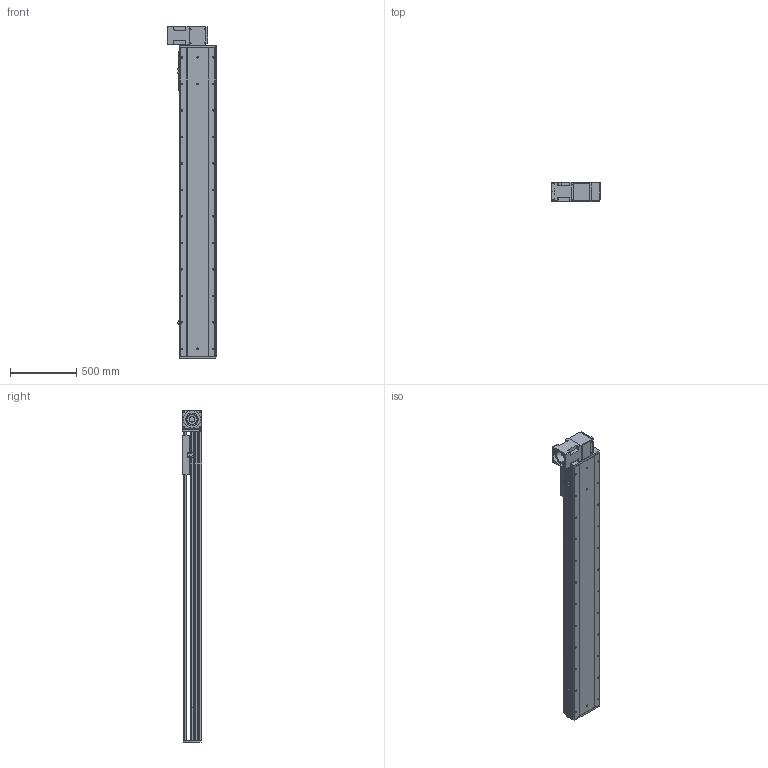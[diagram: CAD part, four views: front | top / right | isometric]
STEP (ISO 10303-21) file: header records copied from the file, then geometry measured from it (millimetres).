
FILE_DESCRIPTION (( 'STEP AP214' ), '1' );
FILE_NAME ('RTB28R-XX-1900-BR-M100-XX-C4.STEP', '2025-12-22T01:19:53', ( '' ), ( '' ), 'SwSTEP 2.0', 'SolidWorks 2018', '' );
FILE_SCHEMA (( 'AUTOMOTIVE_DESIGN' ));
Length unit declared in the file: millimetre
Products named in the file (4): RTB28S-GY-011^RTB28R-XX-XX-BR-M100-XX-C4; RTB28S-GY-008^RTB28R-XX-XX-BR-M100-XX-C4; RTB28R-XX-1900-BR-M100-XX-C4; RTB28S-GY-004^RTB28R-XX-XX-BR-M100-XX-C4
Assembly tree (3 placements, depth 2):
  RTB28R-XX-1900-BR-M100-XX-C4
    RTB28S-GY-011^RTB28R-XX-XX-BR-M100-XX-C4
    RTB28S-GY-004^RTB28R-XX-XX-BR-M100-XX-C4
    RTB28S-GY-008^RTB28R-XX-XX-BR-M100-XX-C4
Bounding box: 370 x 145 x 2507 mm (x, y, z)
Volume: 43793259.8 mm3; surface area: 4139089.5 mm2
Topology: 3 solids, 4 shells, 1028 faces, 2730 edges, 1756 vertices
Faces by surface type: plane 464, cylinder 393, bspline 87, cone 80, torus 4
Entity records: 44146 total; most frequent: CARTESIAN_POINT 11845, ORIENTED_EDGE 5396, DIRECTION 5262, EDGE_CURVE 2698, AXIS2_PLACEMENT_3D 1825, VERTEX_POINT 1756, VECTOR 1612, LINE 1612
